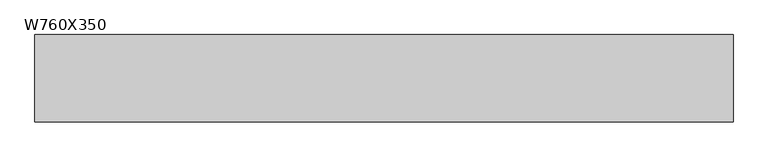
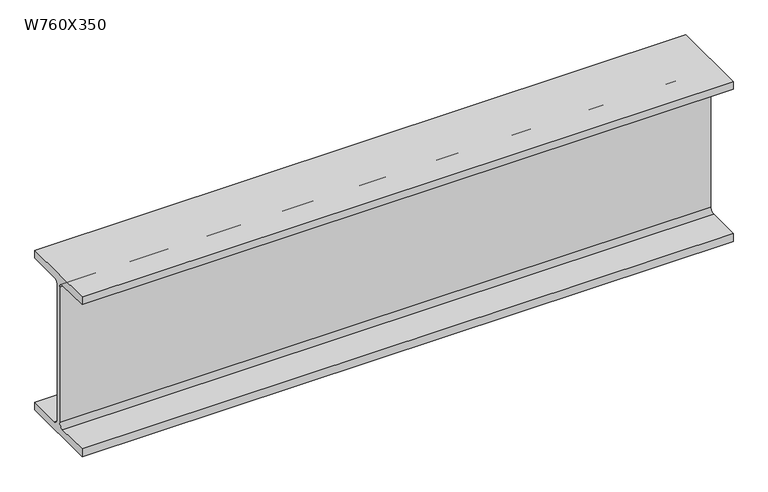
"""IFC4 building model written with IfcOpenShell, lengths in millimetres: beam geometry, M_W-Wide Flange : W760X350."""

from ifc_helpers import new_model, si_unit, point, frame, frame_2d, origin, place, context, project, spatial, polyline, circle_curve, trimmed, segment, composite_curve, outline, extrude, source, transform, mapped, element, save


def w760x350_f3f78417(model_context):
    return source(origin(), model_context, "Body", "SweptSolid", [
        extrude(outline(composite_curve([segment(polyline([(192.0, -359.4), (192.0, -397.5), (-192.0, -397.5), (-192.0, -359.4), (-32.75, -359.4)]), True, "CONTINUOUS"), segment(trimmed(circle_curve(frame_2d((-32.75, -337.2)), 22.2), [point((-32.75, -359.4))], [point((-10.55, -337.2))], True, "CARTESIAN"), True, "CONTINUOUS"), segment(polyline([(-10.55, -337.2), (-10.55, 337.2)]), True, "CONTINUOUS"), segment(trimmed(circle_curve(frame_2d((-32.75, 337.2)), 22.2), [point((-10.55, 337.2))], [point((-32.75, 359.4))], True, "CARTESIAN"), True, "CONTINUOUS"), segment(polyline([(-32.75, 359.4), (-192.0, 359.4), (-192.0, 397.5), (192.0, 397.5), (192.0, 359.4), (32.75, 359.4)]), True, "CONTINUOUS"), segment(trimmed(circle_curve(frame_2d((32.75, 337.2)), 22.2), [point((32.75, 359.4))], [point((10.55, 337.2))], True, "CARTESIAN"), True, "CONTINUOUS"), segment(polyline([(10.55, 337.2), (10.55, -337.2)]), True, "CONTINUOUS"), segment(trimmed(circle_curve(frame_2d((32.75, -337.2)), 22.2), [point((10.55, -337.2))], [point((32.75, -359.4))], True, "CARTESIAN"), True, "CONTINUOUS"), segment(polyline([(32.75, -359.4), (192.0, -359.4)]), True, "CONTINUOUS")], self_intersect=False)), frame((-1531.6367774, 0.0, 0.0), z_axis=(1.0, 0.0, 0.0), x_axis=(0.0, 1.0, 0.0)), (0.0, 0.0, 1.0), 3063.2735548),
    ])


if __name__ == "__main__":
    model = new_model("IFC4")
    model_context = context("Model", 3, world=origin())
    ifc_project = project(units=[si_unit("LENGTHUNIT", "METRE", prefix="MILLI")], contexts=[model_context])
    site = spatial("IfcSite", under=ifc_project)
    building = spatial("IfcBuilding", under=site)
    placement = place(None, origin())
    w760x350_shape = w760x350_f3f78417(model_context)
    element("IfcBeam", 1, ObjectType="M_W-Wide Flange : W760X350", at=placement, inside=building, context=model_context, shape_type="MappedRepresentation", body=[
        mapped(w760x350_shape, transform((0.0, 0.0, 0.0), x_axis=(1.0, 0.0, 0.0), y_axis=(0.0, 1.0, 0.0), z_axis=(0.0, 0.0, 1.0))),
    ])
    save(model, "model.ifc")
